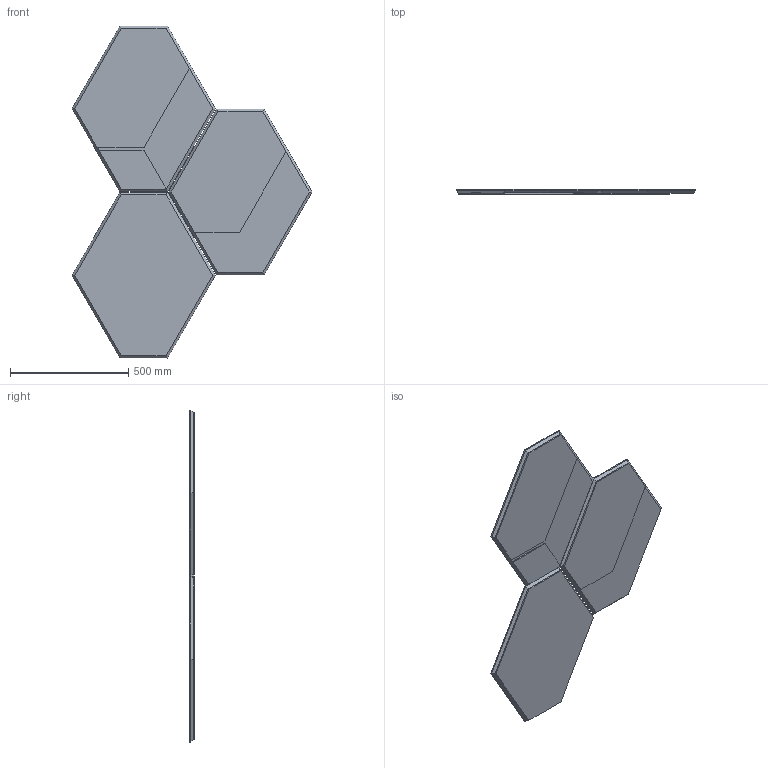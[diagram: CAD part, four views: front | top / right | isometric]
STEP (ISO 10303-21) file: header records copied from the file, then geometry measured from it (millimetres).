
FILE_DESCRIPTION (( 'STEP AP203' ), '1' );
FILE_NAME ('GEO30_GeoABC_142x104.STEP', '2024-08-06T07:23:09', ( '' ), ( '' ), 'SwSTEP 2.0', 'SolidWorks 2022', '' );
FILE_SCHEMA (( 'CONFIG_CONTROL_DESIGN' ));
Length unit declared in the file: millimetre
Products named in the file (4): GEO0000000000-00-Geo strutture A B e C_GEO03 C 70X60,7; GEO0000000000-00-Geo strutture A B e C_GEO02 B 70X60,6; GEO0000000000-00-Geo strutture A B e C_GEO01 A 70X60,5; GEO30_GeoABC_142x104
Assembly tree (3 placements, depth 2):
  GEO30_GeoABC_142x104
    GEO0000000000-00-Geo strutture A B e C_GEO03 C 70X60,7
    GEO0000000000-00-Geo strutture A B e C_GEO02 B 70X60,6
    GEO0000000000-00-Geo strutture A B e C_GEO01 A 70X60,5
Bounding box: 1015.26 x 20 x 1405.2 mm (x, y, z)
Volume: 15394995.6 mm3; surface area: 3057239.9 mm2
Topology: 13 solids, 13 shells, 372 faces, 960 edges, 614 vertices
Faces by surface type: plane 216, cylinder 132, cone 24
Entity records: 11566 total; most frequent: DIRECTION 1956, CARTESIAN_POINT 1928, ORIENTED_EDGE 1872, EDGE_CURVE 936, LINE 672, VECTOR 672, AXIS2_PLACEMENT_3D 642, VERTEX_POINT 614
